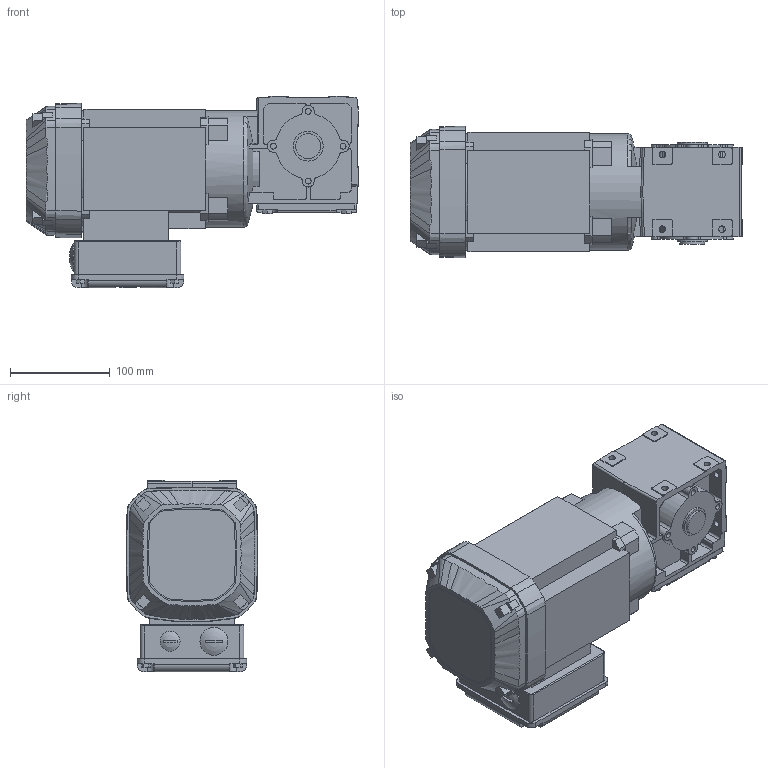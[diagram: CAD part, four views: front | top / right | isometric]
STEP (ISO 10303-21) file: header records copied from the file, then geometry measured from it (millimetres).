
FILE_DESCRIPTION(/* description */ ('SEW WA20 WITH MOTOR 0,37kW'),/* implementation_level */ '2;1');
FILE_NAME(/* name */ 'C:\Users\mikael.ljungberg\OneDrive - Carryline AB\Skrivbordet\Tillfalliga_filer\900-4030.stp',/* time_stamp */ '2021-04-22T08:37:36+02:00',/* author */ ('ML'),/* organization */ ('CARRYLINE'),/* preprocessor_version */ 'ST-DEVELOPER v18.1',/* originating_system */ 'Autodesk Inventor 2020',/* authorisation */ 'ML');
FILE_SCHEMA (('AUTOMOTIVE_DESIGN { 1 0 10303 214 3 1 1 }'));
Length unit declared in the file: millimetre
Products named in the file (1): 900-4030
Bounding box: 333.2 x 131.82 x 192 mm (x, y, z)
Volume: 4462804.4 mm3; surface area: 250919.1 mm2
Topology: 1 solids, 3 shells, 736 faces, 2084 edges, 1387 vertices
Faces by surface type: plane 373, cylinder 290, cone 37, bspline 33, sphere 2, torus 1
Full cylindrical faces by diameter (mm): 6 x9, 6.6 x8, 20 x1, 25 x1, 28 x1, 30 x2, 117 x1
Entity records: 26332 total; most frequent: CARTESIAN_POINT 6751, ORIENTED_EDGE 4166, DIRECTION 4109, EDGE_CURVE 2083, AXIS2_PLACEMENT_3D 1440, VERTEX_POINT 1387, LINE 1229, VECTOR 1229
